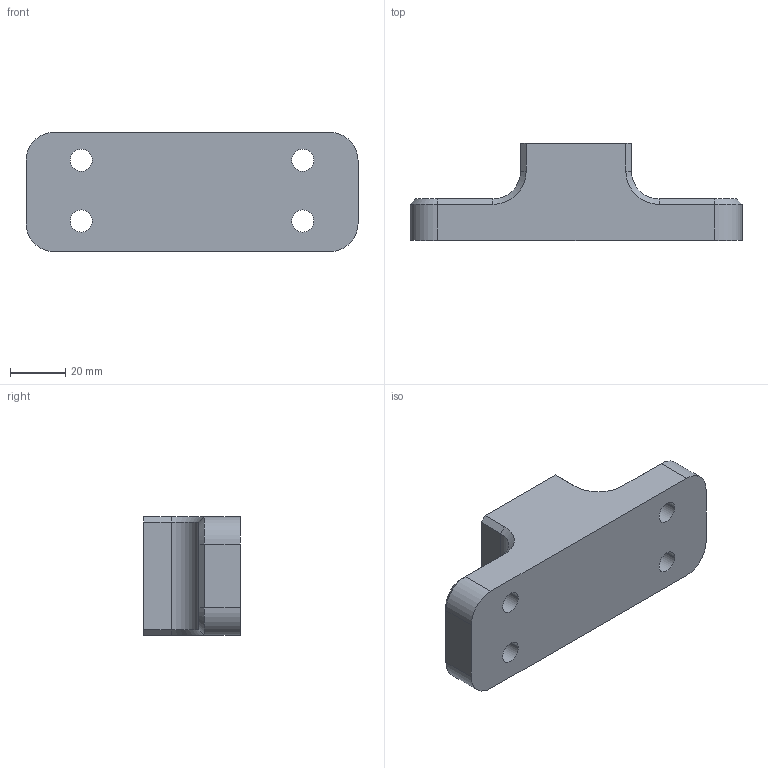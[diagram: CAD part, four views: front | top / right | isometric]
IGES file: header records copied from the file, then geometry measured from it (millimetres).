
Start section: ROBERT BOSCH POWER TOOLS GmbH
Global section: file name: holder_hook_b_mar2024.igs; native system: Creo Parametric by PTC Inc.; preprocessor: 2025123; author: GOS1PG2; organization: Unknown; date: 20260127.110658; units: millimetre
Bounding box: 120 x 35 x 43 mm (x, y, z)
Surface area: 20820.7 mm2 (no closed solid volume)
Topology: 0 solids, 0 shells, 82 faces, 408 edges, 408 vertices
Faces by surface type: bspline 44, revolution 38
